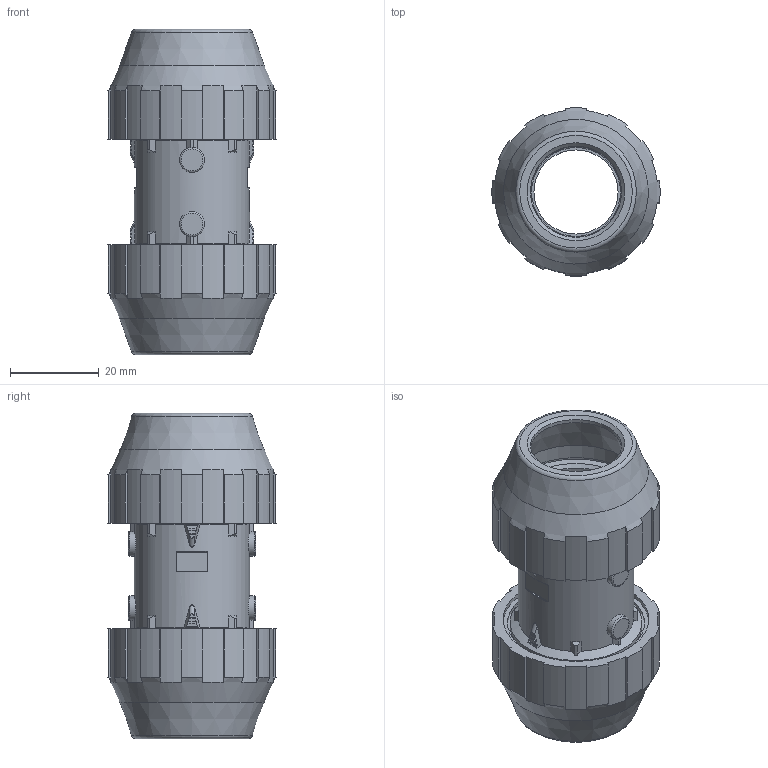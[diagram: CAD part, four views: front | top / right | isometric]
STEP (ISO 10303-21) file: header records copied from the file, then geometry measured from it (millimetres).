
FILE_DESCRIPTION( ( 'STEP AP214' ), '1' );
FILE_NAME( ' ', ' ', ( ' ' ), ( ' ' ), 'PSStep 11.0', 'VISI 17.0', ' ' );
FILE_SCHEMA( ( 'AUTOMOTIVE_DESIGN { 1 0 10303 214 1 1 1 1 }' ) );
Length unit declared in the file: millimetre
Products named in the file (10): 1; 2; 3; 4; 5; 6; 7; 8; 9; 10
Bounding box: 37.96 x 37.96 x 73.5 mm (x, y, z)
Volume: 25633.3 mm3; surface area: 28832.6 mm2
Topology: 10 solids, 10 shells, 330 faces, 868 edges, 569 vertices
Faces by surface type: plane 160, cylinder 130, torus 18, cone 14, bspline 8
Full cylindrical faces by diameter (mm): 5.633 x4, 19 x1, 20.6 x4, 24.9 x2, 26 x1, 29.88 x2, 31 x3, 33 x5
Entity records: 14438 total; most frequent: CARTESIAN_POINT 3616, DIRECTION 1768, ORIENTED_EDGE 1592, EDGE_CURVE 796, AXIS2_PLACEMENT_3D 704, VERTEX_POINT 548, EDGE_LOOP 404, FACE_OUTER_BOUND 366
